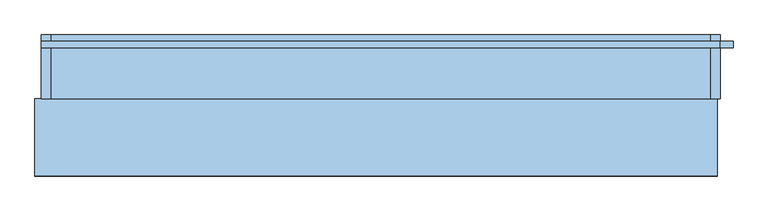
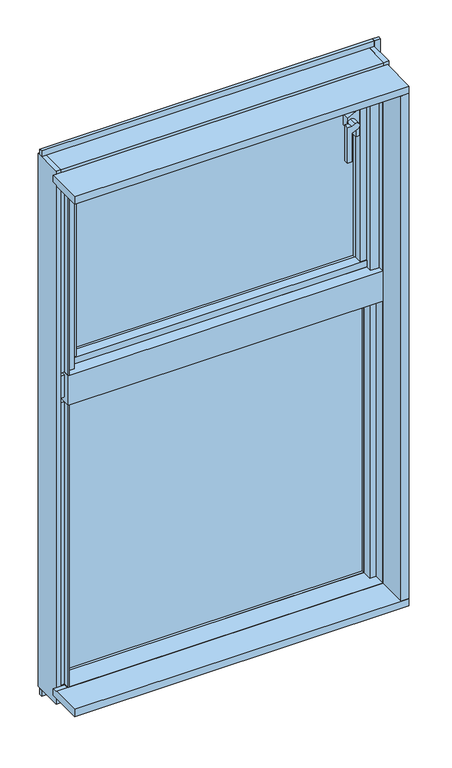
"""IFC4 building model written with IfcOpenShell, lengths in millimetres: window geometry, FNSⅡ100R_個別防火_面付枠_段窓 : たてすべりだし/FIX."""

from ifc_helpers import new_model, si_unit, frame, origin, place, context, project, spatial, polyline, circle_curve, outline, extrude, faceted_brep, source, transform, mapped, element, save
from ifc_brep_helpers import plane_surface, cylinder_surface, advanced_brep


def window_f1f49c0d(model_context):
    return source(origin(), model_context, "Body", "SolidModel", [
        advanced_brep(
        [(422.5780089, 11.75, 2459.8870044), (422.5780089, 36.25, 2459.8870044), (413.0, 36.25, 2455.2157929), (413.0, 26.727, 2455.2157929), (412.9, 11.75, 2455.1670227), (399.9, 11.75, 2335.0), (399.9, 26.727, 2335.0), (413.0, 26.727, 2335.0), (413.0, 11.75, 2335.0), (399.9, 11.75, 2455.1670227), (413.0, 11.75, 2430.7385568), (432.2217924, 11.75, 2440.1128987), (432.2217924, 36.25, 2440.1128987), (413.0, 36.25, 2430.7385568), (413.0, 26.727, 2430.7385568), (399.9, 26.727, 2455.1670227)],
        [
            (0, 1),
            (1, 2),
            (2, 3),
            (3, 4),
            (4, 0),
            (5, 6),
            (6, 7),
            (7, 8),
            (8, 5),
            (4, 9),
            (9, 5),
            (8, 10),
            (10, 11),
            (11, 0, circle_curve(frame((427.3999338, 11.75, 2449.9999677), z_axis=(0.0, -1.0, 0.0), x_axis=(-1.0, 0.0, 0.0)), 11.0002024)),
            (1, 12, circle_curve(frame((427.3999338, 36.25, 2449.9999677), z_axis=(0.0, 1.0, 0.0), x_axis=(-1.0, 0.0, 0.0)), 11.0002024)),
            (12, 13),
            (13, 2),
            (11, 12),
            (10, 14),
            (14, 13),
            (14, 3),
            (15, 3),
            (14, 7),
            (6, 15),
            (9, 15),
        ],
        [
            plane_surface(frame((413.0, 11.75, 2455.2157929), z_axis=(-0.43834873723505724, 0.0, 0.8988049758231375), x_axis=(0.0, 1.0, 0.0))),
            plane_surface(frame((413.0, 11.75, 2335.0), z_axis=(0.0, 0.0, -1.0), x_axis=(0.0, 1.0, 0.0))),
            plane_surface(frame((416.3997314, 11.75, 2449.9999677), z_axis=(0.0, -1.0, 0.0), x_axis=(0.0, 0.0, 1.0))),
            plane_surface(frame((416.3997314, 36.25, 2449.9999677), z_axis=(0.0, 1.0, 0.0), x_axis=(0.0, 0.0, -1.0))),
            cylinder_surface(frame((427.3999338, 36.25, 2449.9999677), z_axis=(0.0, -1.0, 0.0), x_axis=(-1.0, 0.0, 0.0)), 11.0002024),
            plane_surface(frame((432.2217924, 11.75, 2440.1128987), z_axis=(0.4383427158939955, 0.0, -0.8988079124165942), x_axis=(0.0, 1.0, 0.0))),
            plane_surface(frame((413.0, 11.75, 2430.7385568), z_axis=(-1.0, 0.0, 0.0), x_axis=(0.0, 1.0, 0.0))),
            plane_surface(frame((412.9, 26.727, 2455.1670227), z_axis=(0.0, 1.0, 0.0), x_axis=(-1.0, 0.0, 0.0))),
            plane_surface(frame((413.0, 11.75, 2455.1670227), z_axis=(1.0, 0.0, 0.0), x_axis=(0.0, 1.0, 0.0))),
            plane_surface(frame((399.9, 11.75, 2335.0), z_axis=(-1.0, 0.0, 0.0), x_axis=(0.0, 1.0, 0.0))),
            plane_surface(frame((399.9, 11.75, 2455.1670227), z_axis=(0.0, 0.0, 1.0), x_axis=(0.0, 1.0, 0.0))),
        ],
        [
            (0, [[1, 2, 3, 4, 5]]),
            (1, [[6, 7, 8, 9]]),
            (2, [[-5, 10, 11, -9, 12, 13, 14]]),
            (3, [[15, 16, 17, -2]]),
            (4, [[18, -15, -1, -14]]),
            (5, [[19, 20, -16, -18, -13]]),
            (6, [[-20, 21, -3, -17]]),
            (7, [[22, -21, 23, -7, 24]]),
            (8, [[-23, -19, -12, -8]]),
            (9, [[25, -24, -6, -11]]),
            (10, [[-4, -22, -25, -10]]),
        ],
    ),
        extrude(outline(polyline([(2504.0, 453.0), (2504.0, 440.0), (2481.1802364, 440.0), (2467.9350486, 413.0), (2432.0649514, 413.0), (2418.8197636, 440.0), (2396.0, 440.0), (2396.0, 453.0), (2504.0, 453.0)])), frame((0.0, 36.25, 0.0), z_axis=(0.0, 1.0, 0.0), x_axis=(0.0, 0.0, 1.0)), (0.0, 0.0, 1.0), 21.0),
        extrude(outline(polyline([(-453.0, 80.0), (453.0, 80.0), (453.0, 74.0), (-453.0, 74.0), (-453.0, 80.0)])), frame((0.0, 0.0, 1969.0), z_axis=(0.0, 0.0, 1.0), x_axis=(1.0, 0.0, 0.0)), (0.0, 0.0, 1.0), 585.0),
        extrude(outline(polyline([(-453.0, 98.0), (453.0, 98.0), (453.0, 92.0), (-453.0, 92.0), (-453.0, 98.0)])), frame((0.0, 0.0, 1969.0), z_axis=(0.0, 0.0, 1.0), x_axis=(1.0, 0.0, 0.0)), (0.0, 0.0, 1.0), 585.0),
        faceted_brep([(-486.0, 38.0, 1929.0), (-472.2, 38.0, 1929.0), (-472.2, 38.0, 2584.0), (-486.0, 38.0, 2584.0), (-486.0, 105.5, 1929.0), (-486.0, 103.5, 2584.0), (-486.0, 103.5, 2600.0), (-486.0, 105.5, 2600.0), (-472.2, 103.5, 2584.0), (-472.2, 103.5, 2600.0), (-500.0, 105.5, 1929.0), (-500.0, 110.0, 1929.0), (-472.2, 110.0, 1929.0), (-500.0, 105.5, 2600.0), (-500.0, 110.0, 2600.0), (-472.2, 110.0, 2600.0), (-472.2, 110.0, 2554.0), (-453.0, 110.0, 2554.0), (-453.0, 110.0, 1969.0), (-472.2, 110.0, 1969.0), (-472.2, 61.0, 1969.0), (-472.2, 61.0, 2554.0), (-453.0, 61.0, 2554.0), (-453.0, 61.0, 1969.0)], [[[0, 1, 2, 3]], [[4, 0, 3, 5, 6, 7]], [[5, 8, 9, 6]], [[10, 11, 12, 1, 0, 4]], [[13, 14, 11, 10]], [[14, 15, 16, 17, 18, 19, 12, 11]], [[1, 12, 19, 20, 21, 16, 15, 9, 8, 2]], [[7, 13, 10, 4]], [[17, 22, 23, 18]], [[19, 18, 23, 20]], [[22, 21, 20, 23]], [[13, 7, 6, 9, 15, 14]], [[8, 5, 3, 2]], [[21, 22, 17, 16]]]),
        faceted_brep([(472.2, 110.0, 2600.0), (500.0, 110.0, 2600.0), (500.0, 110.0, 1929.0), (472.2, 110.0, 1929.0), (472.2, 110.0, 1969.0), (453.0, 110.0, 1969.0), (453.0, 110.0, 2554.0), (472.2, 110.0, 2554.0), (472.2, 103.5, 2584.0), (486.0, 103.5, 2584.0), (486.0, 103.5, 2600.0), (472.2, 103.5, 2600.0), (500.0, 105.5, 1929.0), (486.0, 105.5, 1929.0), (486.0, 38.0, 1929.0), (472.2, 38.0, 1929.0), (500.0, 105.5, 2600.0), (486.0, 105.5, 2600.0), (486.0, 38.0, 2584.0), (472.2, 38.0, 2584.0), (472.2, 61.0, 2554.0), (472.2, 61.0, 1969.0), (453.0, 61.0, 1969.0), (453.0, 61.0, 2554.0)], [[[0, 1, 2, 3, 4, 5, 6, 7]], [[8, 9, 10, 11]], [[12, 13, 14, 15, 3, 2]], [[16, 17, 13, 12]], [[14, 13, 17, 10, 9, 18]], [[15, 14, 18, 19]], [[3, 15, 19, 8, 11, 0, 7, 20, 21, 4]], [[1, 16, 12, 2]], [[21, 22, 5, 4]], [[23, 6, 5, 22]], [[20, 23, 22, 21]], [[16, 1, 0, 11, 10, 17]], [[9, 8, 19, 18]], [[7, 6, 23, 20]]]),
        extrude(outline(polyline([(-453.0, 32.5), (-472.2, 32.5), (-472.2, 61.0), (-453.0, 61.0), (-453.0, 32.5)])), frame((0.0, 0.0, 1972.0), z_axis=(0.0, 0.0, 1.0), x_axis=(1.0, 0.0, 0.0)), (0.0, 0.0, 1.0), 579.0),
        extrude(outline(polyline([(453.0, 32.5), (453.0, 61.0), (472.2, 61.0), (472.2, 32.5), (453.0, 32.5)])), frame((0.0, 0.0, 1972.0), z_axis=(0.0, 0.0, 1.0), x_axis=(1.0, 0.0, 0.0)), (0.0, 0.0, 1.0), 579.0),
        extrude(outline(polyline([(472.2, 61.0), (472.2, 30.0), (-472.2, 30.0), (-472.2, 61.0), (472.2, 61.0)])), frame((0.0, 0.0, 1950.0), z_axis=(0.0, 0.0, 1.0), x_axis=(1.0, 0.0, 0.0)), (0.0, 0.0, 1.0), 22.0),
        extrude(outline(polyline([(110.0, 1929.0), (38.0, 1929.0), (38.0, 1950.0), (61.0, 1950.0), (61.0, 1969.0), (110.0, 1969.0), (110.0, 1929.0)])), frame((-472.2, 0.0, 0.0), z_axis=(1.0, 0.0, 0.0), x_axis=(0.0, 1.0, 0.0)), (0.0, 0.0, 1.0), 944.4),
        extrude(outline(polyline([(110.0, 2600.0), (110.0, 2554.0), (61.0, 2554.0), (61.0, 2573.2), (38.0, 2573.2), (38.0, 2584.0), (103.5, 2584.0), (103.5, 2600.0), (110.0, 2600.0)])), frame((-472.2, 0.0, 0.0), z_axis=(1.0, 0.0, 0.0), x_axis=(0.0, 1.0, 0.0)), (0.0, 0.0, 1.0), 944.4),
        extrude(outline(polyline([(472.2, 61.0), (472.2, 30.0), (-472.2, 30.0), (-472.2, 61.0), (472.2, 61.0)])), frame((0.0, 0.0, 2551.0), z_axis=(0.0, 0.0, 1.0), x_axis=(1.0, 0.0, 0.0)), (0.0, 0.0, 1.0), 22.2),
        faceted_brep([(-515.0, 110.0, 2635.0), (-515.0, 10.0, 2635.0), (-515.0, 10.0, 840.0), (-515.0, 110.0, 840.0), (-515.0, 110.0, 1900.0), (-515.0, 29.0, 1900.0), (-515.0, 29.0, 2600.0), (-515.0, 110.0, 2600.0), (-530.0, 10.0, 2635.0), (-530.0, 10.0, 840.0), (-500.0, 110.0, 2600.0), (-500.0, 34.0, 2600.0), (-500.0, 34.0, 1900.0), (-500.0, 110.0, 1900.0), (-478.0, 34.0, 2600.0), (-478.0, 34.0, 1900.0), (-478.0, 29.0, 2600.0), (-478.0, 29.0, 1900.0), (-530.0, 110.0, 2635.0), (-530.0, 110.0, 840.0)], [[[0, 1, 2, 3, 4, 5, 6, 7]], [[1, 8, 9, 2]], [[10, 11, 12, 13]], [[11, 14, 15, 12]], [[14, 16, 17, 15]], [[18, 8, 1, 0]], [[19, 3, 2, 9]], [[18, 0, 7, 10, 13, 4, 3, 19]], [[8, 18, 19, 9]], [[13, 12, 15, 17, 5, 4]], [[16, 6, 5, 17]], [[10, 7, 6, 16, 14, 11]]]),
        faceted_brep([(530.0, 10.0, 2635.0), (515.0, 10.0, 2635.0), (515.0, 10.0, 840.0), (530.0, 10.0, 840.0), (478.0, 29.0, 2600.0), (478.0, 34.0, 2600.0), (478.0, 34.0, 1900.0), (478.0, 29.0, 1900.0), (530.0, 110.0, 2635.0), (515.0, 110.0, 2635.0), (515.0, 110.0, 840.0), (530.0, 110.0, 840.0), (515.0, 110.0, 2600.0), (515.0, 29.0, 2600.0), (515.0, 29.0, 1900.0), (515.0, 110.0, 1900.0), (500.0, 110.0, 1900.0), (500.0, 110.0, 2600.0), (500.0, 34.0, 1900.0), (500.0, 34.0, 2600.0)], [[[0, 1, 2, 3]], [[4, 5, 6, 7]], [[1, 0, 8, 9]], [[2, 10, 11, 3]], [[1, 9, 12, 13, 14, 15, 10, 2]], [[9, 8, 11, 10, 15, 16, 17, 12]], [[8, 0, 3, 11]], [[18, 16, 15, 14, 7, 6]], [[19, 17, 16, 18]], [[13, 4, 7, 14]], [[5, 19, 18, 6]], [[19, 5, 4, 13, 12, 17]]]),
        extrude(outline(polyline([(500.0, -10.0), (500.0, 10.0), (472.0, 10.0), (472.0, 29.0), (515.0, 29.0), (515.0, 10.0), (503.0, 10.0), (503.0, -10.0), (500.0, -10.0)])), frame((0.0, 0.0, 1950.0), z_axis=(0.0, 0.0, 1.0), x_axis=(1.0, 0.0, 0.0)), (0.0, 0.0, 1.0), 653.0),
        extrude(outline(polyline([(-515.0, 10.0), (-515.0, 29.0), (-472.0, 29.0), (-472.0, 10.0), (-500.0, 10.0), (-500.0, -10.0), (-503.0, -10.0), (-503.0, 10.0), (-515.0, 10.0)])), frame((0.0, 0.0, 1950.0), z_axis=(0.0, 0.0, 1.0), x_axis=(1.0, 0.0, 0.0)), (0.0, 0.0, 1.0), 653.0),
        extrude(outline(polyline([(29.0, 2573.0), (7.5, 2573.0), (7.5, 2600.0), (-10.0, 2600.0), (-10.0, 2603.0), (10.0, 2603.0), (10.0, 2612.5), (29.0, 2612.5), (29.0, 2573.0)])), frame((-500.0, 0.0, 0.0), z_axis=(1.0, 0.0, 0.0), x_axis=(0.0, 1.0, 0.0)), (0.0, 0.0, 1.0), 1000.0),
        extrude(outline(polyline([(110.0, 2600.0), (34.0, 2600.0), (34.0, 2579.0), (29.0, 2579.0), (29.0, 2612.5), (10.0, 2612.5), (10.0, 2635.0), (110.0, 2635.0), (110.0, 2600.0)])), frame((-515.0, 0.0, 0.0), z_axis=(1.0, 0.0, 0.0), x_axis=(0.0, 1.0, 0.0)), (0.0, 0.0, 1.0), 1030.0),
        extrude(outline(polyline([(10.0, 1940.0), (10.0, 1865.0), (60.0, 1865.0), (60.0, 1850.0), (-10.0, 1850.0), (-10.0, 1950.0), (29.0, 1950.0), (29.0, 1940.0), (10.0, 1940.0)])), frame((-503.0, 0.0, 0.0), z_axis=(1.0, 0.0, 0.0), x_axis=(0.0, 1.0, 0.0)), (0.0, 0.0, 1.0), 1006.0),
        extrude(outline(polyline([(110.0, 1850.0), (60.0, 1850.0), (60.0, 1865.0), (10.0, 1865.0), (10.0, 1940.0), (34.0, 1940.0), (34.0, 1915.0), (99.0, 1915.0), (99.0, 1900.0), (110.0, 1900.0), (110.0, 1850.0)])), frame((-515.0, 0.0, 0.0), z_axis=(1.0, 0.0, 0.0), x_axis=(0.0, 1.0, 0.0)), (0.0, 0.0, 1.0), 1030.0),
        extrude(outline(polyline([(-480.0, 75.6), (480.0, 75.6), (480.0, 69.6), (-480.0, 69.6), (-480.0, 75.6)])), frame((0.0, 0.0, 900.0), z_axis=(0.0, 0.0, 1.0), x_axis=(1.0, 0.0, 0.0)), (0.0, 0.0, 1.0), 950.0),
        extrude(outline(polyline([(-480.0, 93.6), (480.0, 93.6), (480.0, 87.6), (-480.0, 87.6), (-480.0, 93.6)])), frame((0.0, 0.0, 900.0), z_axis=(0.0, 0.0, 1.0), x_axis=(1.0, 0.0, 0.0)), (0.0, 0.0, 1.0), 950.0),
        extrude(outline(polyline([(-480.0, 110.0), (-480.0, 60.0), (-515.0, 60.0), (-515.0, 110.0), (-480.0, 110.0)])), frame((0.0, 0.0, 900.0), z_axis=(0.0, 0.0, 1.0), x_axis=(1.0, 0.0, 0.0)), (0.0, 0.0, 1.0), 950.0),
        extrude(outline(polyline([(515.0, 110.0), (515.0, 60.0), (480.0, 60.0), (480.0, 110.0), (515.0, 110.0)])), frame((0.0, 0.0, 900.0), z_axis=(0.0, 0.0, 1.0), x_axis=(1.0, 0.0, 0.0)), (0.0, 0.0, 1.0), 950.0),
        extrude(outline(polyline([(500.0, -10.0), (500.0, 28.5), (480.0, 28.5), (480.0, 60.0), (515.0, 60.0), (515.0, 10.0), (503.0, 10.0), (503.0, -10.0), (500.0, -10.0)])), frame((0.0, 0.0, 900.0), z_axis=(0.0, 0.0, 1.0), x_axis=(1.0, 0.0, 0.0)), (0.0, 0.0, 1.0), 950.0),
        extrude(outline(polyline([(-515.0, 10.0), (-515.0, 60.0), (-480.0, 60.0), (-480.0, 28.5), (-500.0, 28.5), (-500.0, -10.0), (-503.0, -10.0), (-503.0, 10.0), (-515.0, 10.0)])), frame((0.0, 0.0, 900.0), z_axis=(0.0, 0.0, 1.0), x_axis=(1.0, 0.0, 0.0)), (0.0, 0.0, 1.0), 950.0),
        extrude(outline(polyline([(10.0, 884.0), (10.0, 897.0), (-10.0, 897.0), (-10.0, 900.0), (60.0, 900.0), (60.0, 884.0), (10.0, 884.0)])), frame((-503.0, 0.0, 0.0), z_axis=(1.0, 0.0, 0.0), x_axis=(0.0, 1.0, 0.0)), (0.0, 0.0, 1.0), 1006.0),
        extrude(outline(polyline([(110.0, 840.0), (10.0, 840.0), (10.0, 884.0), (60.0, 884.0), (60.0, 900.0), (110.0, 900.0), (110.0, 870.0), (91.0, 870.0), (91.0, 850.0), (110.0, 850.0), (110.0, 840.0)])), frame((-515.0, 0.0, 0.0), z_axis=(1.0, 0.0, 0.0), x_axis=(0.0, 1.0, 0.0)), (0.0, 0.0, 1.0), 1030.0),
        extrude(outline(polyline([(-110.0, 900.0), (-10.0, 900.0), (-10.0, 897.0), (10.0, 897.0), (10.0, 875.0), (-110.0, 875.0), (-110.0, 900.0)])), frame((-540.0, 0.0, 0.0), z_axis=(1.0, 0.0, 0.0), x_axis=(0.0, 1.0, 0.0)), (0.0, 0.0, 1.0), 1065.0),
        extrude(outline(polyline([(-530.0, 90.0), (-530.0, 100.0), (530.0, 100.0), (530.0, 90.0), (-530.0, 90.0)])), frame((0.0, 0.0, 820.0), z_axis=(0.0, 0.0, 1.0), x_axis=(1.0, 0.0, 0.0)), (0.0, 0.0, 1.0), 20.0),
        extrude(outline(polyline([(525.0, 10.0), (525.0, -110.0), (500.0, -110.0), (500.0, -10.0), (503.0, -10.0), (503.0, 10.0), (525.0, 10.0)])), frame((0.0, 0.0, 900.0), z_axis=(0.0, 0.0, 1.0), x_axis=(1.0, 0.0, 0.0)), (0.0, 0.0, 1.0), 1700.0),
        extrude(outline(polyline([(550.0, 90.0), (530.0, 90.0), (530.0, 100.0), (550.0, 100.0), (550.0, 90.0)])), frame((0.0, 0.0, 820.0), z_axis=(0.0, 0.0, 1.0), x_axis=(1.0, 0.0, 0.0)), (0.0, 0.0, 1.0), 1835.0),
        extrude(outline(polyline([(-110.0, 2625.0), (10.0, 2625.0), (10.0, 2603.0), (-10.0, 2603.0), (-10.0, 2600.0), (-110.0, 2600.0), (-110.0, 2625.0)])), frame((-540.0, 0.0, 0.0), z_axis=(1.0, 0.0, 0.0), x_axis=(0.0, 1.0, 0.0)), (0.0, 0.0, 1.0), 1065.0),
        extrude(outline(polyline([(-530.0, 90.0), (-530.0, 100.0), (530.0, 100.0), (530.0, 90.0), (-530.0, 90.0)])), frame((0.0, 0.0, 2635.0), z_axis=(0.0, 0.0, 1.0), x_axis=(1.0, 0.0, 0.0)), (0.0, 0.0, 1.0), 20.0),
    ])


if __name__ == "__main__":
    model = new_model("IFC4")
    model_context = context("Model", 3, world=origin())
    ifc_project = project(units=[si_unit("LENGTHUNIT", "METRE", prefix="MILLI")], contexts=[model_context])
    site = spatial("IfcSite", under=ifc_project)
    building = spatial("IfcBuilding", under=site)
    placement = place(None, origin())
    window_shape = window_f1f49c0d(model_context)
    element("IfcWindow", 1, ObjectType="FNSⅡ100R_個別防火_面付枠_段窓 : たてすべりだし/FIX", at=placement, inside=building, context=model_context, shape_type="MappedRepresentation", body=[
        mapped(window_shape, transform((0.0, 0.0, 0.0), x_axis=(1.0, 0.0, 0.0), y_axis=(0.0, 1.0, 0.0), z_axis=(0.0, 0.0, 1.0))),
    ])
    save(model, "model.ifc")
